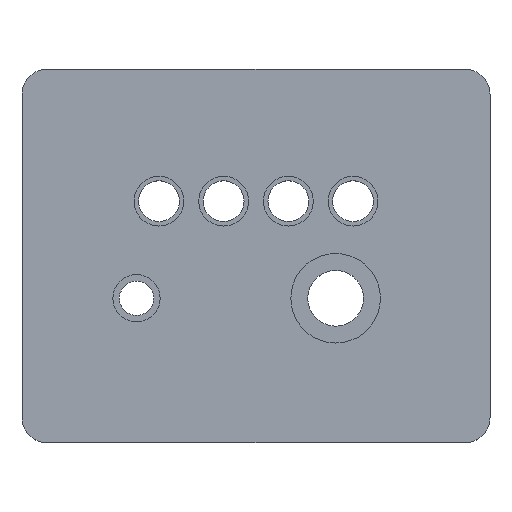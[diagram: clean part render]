
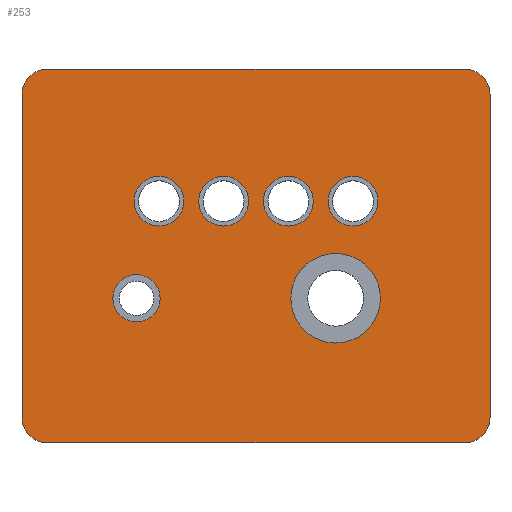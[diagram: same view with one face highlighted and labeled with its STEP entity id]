
A CAD part, top view. The second image highlights one B-rep face of the part: STEP entity #253.
In plain terms, the highlighted planar face has unit normal (0, 0, 1).
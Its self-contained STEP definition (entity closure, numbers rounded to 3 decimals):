
#40=CARTESIAN_POINT('Vertex',(-29.,22.,3.2)) ;
#45=CARTESIAN_POINT('Axis2P3D Location',(-39.,22.,3.2)) ;
#49=CARTESIAN_POINT('Vertex',(-49.,22.,3.2)) ;
#71=CARTESIAN_POINT('Axis2P3D Location',(-39.,22.,3.2)) ;
#88=CARTESIAN_POINT('Axis2P3D Location',(0.,0.,3.2)) ;
#93=CARTESIAN_POINT('Line Origine',(0.,-75.,3.2)) ;
#97=CARTESIAN_POINT('Vertex',(-84.,-75.,3.2)) ;
#99=CARTESIAN_POINT('Vertex',(84.,-75.,3.2)) ;
#102=CARTESIAN_POINT('Axis2P3D Location',(84.,-65.,3.2)) ;
#106=CARTESIAN_POINT('Vertex',(94.,-65.,3.2)) ;
#109=CARTESIAN_POINT('Line Origine',(94.,0.,3.2)) ;
#113=CARTESIAN_POINT('Vertex',(94.,65.,3.2)) ;
#116=CARTESIAN_POINT('Axis2P3D Location',(84.,65.,3.2)) ;
#120=CARTESIAN_POINT('Vertex',(84.,75.,3.2)) ;
#123=CARTESIAN_POINT('Line Origine',(0.,75.,3.2)) ;
#127=CARTESIAN_POINT('Vertex',(-84.,75.,3.2)) ;
#130=CARTESIAN_POINT('Axis2P3D Location',(-84.,65.,3.2)) ;
#134=CARTESIAN_POINT('Vertex',(-94.,65.,3.2)) ;
#137=CARTESIAN_POINT('Line Origine',(-94.,0.,3.2)) ;
#141=CARTESIAN_POINT('Vertex',(-94.,-65.,3.2)) ;
#144=CARTESIAN_POINT('Axis2P3D Location',(-84.,-65.,3.2)) ;
#163=CARTESIAN_POINT('Axis2P3D Location',(-13.,22.,3.2)) ;
#167=CARTESIAN_POINT('Vertex',(-3.,22.,3.2)) ;
#169=CARTESIAN_POINT('Vertex',(-23.,22.,3.2)) ;
#172=CARTESIAN_POINT('Axis2P3D Location',(-13.,22.,3.2)) ;
#181=CARTESIAN_POINT('Axis2P3D Location',(13.,22.,3.2)) ;
#185=CARTESIAN_POINT('Vertex',(23.,22.,3.2)) ;
#187=CARTESIAN_POINT('Vertex',(3.,22.,3.2)) ;
#190=CARTESIAN_POINT('Axis2P3D Location',(13.,22.,3.2)) ;
#199=CARTESIAN_POINT('Axis2P3D Location',(39.,22.,3.2)) ;
#203=CARTESIAN_POINT('Vertex',(49.,22.,3.2)) ;
#205=CARTESIAN_POINT('Vertex',(29.,22.,3.2)) ;
#208=CARTESIAN_POINT('Axis2P3D Location',(39.,22.,3.2)) ;
#217=CARTESIAN_POINT('Axis2P3D Location',(-48.,-17.,3.2)) ;
#221=CARTESIAN_POINT('Vertex',(-38.5,-17.,3.2)) ;
#223=CARTESIAN_POINT('Vertex',(-57.5,-17.,3.2)) ;
#226=CARTESIAN_POINT('Axis2P3D Location',(-48.,-17.,3.2)) ;
#235=CARTESIAN_POINT('Axis2P3D Location',(32.,-17.,3.2)) ;
#239=CARTESIAN_POINT('Vertex',(50.,-17.,3.2)) ;
#241=CARTESIAN_POINT('Vertex',(14.,-17.,3.2)) ;
#244=CARTESIAN_POINT('Axis2P3D Location',(32.,-17.,3.2)) ;
#95=VECTOR('Line Direction',#94,1.) ;
#111=VECTOR('Line Direction',#110,1.) ;
#125=VECTOR('Line Direction',#124,1.) ;
#139=VECTOR('Line Direction',#138,1.) ;
#46=DIRECTION('Axis2P3D Direction',(0.,0.,1.)) ;
#72=DIRECTION('Axis2P3D Direction',(0.,0.,1.)) ;
#89=DIRECTION('Axis2P3D Direction',(0.,0.,1.)) ;
#90=DIRECTION('Axis2P3D XDirection',(1.,0.,0.)) ;
#94=DIRECTION('Vector Direction',(1.,0.,0.)) ;
#103=DIRECTION('Axis2P3D Direction',(0.,0.,1.)) ;
#110=DIRECTION('Vector Direction',(0.,1.,0.)) ;
#117=DIRECTION('Axis2P3D Direction',(0.,0.,1.)) ;
#124=DIRECTION('Vector Direction',(-1.,0.,0.)) ;
#131=DIRECTION('Axis2P3D Direction',(0.,0.,1.)) ;
#138=DIRECTION('Vector Direction',(0.,-1.,0.)) ;
#145=DIRECTION('Axis2P3D Direction',(0.,0.,1.)) ;
#164=DIRECTION('Axis2P3D Direction',(0.,0.,1.)) ;
#173=DIRECTION('Axis2P3D Direction',(0.,0.,1.)) ;
#182=DIRECTION('Axis2P3D Direction',(0.,0.,1.)) ;
#191=DIRECTION('Axis2P3D Direction',(0.,0.,1.)) ;
#200=DIRECTION('Axis2P3D Direction',(0.,0.,1.)) ;
#209=DIRECTION('Axis2P3D Direction',(0.,0.,1.)) ;
#218=DIRECTION('Axis2P3D Direction',(0.,0.,1.)) ;
#227=DIRECTION('Axis2P3D Direction',(0.,0.,1.)) ;
#236=DIRECTION('Axis2P3D Direction',(0.,0.,1.)) ;
#245=DIRECTION('Axis2P3D Direction',(0.,0.,1.)) ;
#47=AXIS2_PLACEMENT_3D('Circle Axis2P3D',#45,#46,$) ;
#73=AXIS2_PLACEMENT_3D('Circle Axis2P3D',#71,#72,$) ;
#91=AXIS2_PLACEMENT_3D('Plane Axis2P3D',#88,#89,#90) ;
#104=AXIS2_PLACEMENT_3D('Circle Axis2P3D',#102,#103,$) ;
#118=AXIS2_PLACEMENT_3D('Circle Axis2P3D',#116,#117,$) ;
#132=AXIS2_PLACEMENT_3D('Circle Axis2P3D',#130,#131,$) ;
#146=AXIS2_PLACEMENT_3D('Circle Axis2P3D',#144,#145,$) ;
#165=AXIS2_PLACEMENT_3D('Circle Axis2P3D',#163,#164,$) ;
#174=AXIS2_PLACEMENT_3D('Circle Axis2P3D',#172,#173,$) ;
#183=AXIS2_PLACEMENT_3D('Circle Axis2P3D',#181,#182,$) ;
#192=AXIS2_PLACEMENT_3D('Circle Axis2P3D',#190,#191,$) ;
#201=AXIS2_PLACEMENT_3D('Circle Axis2P3D',#199,#200,$) ;
#210=AXIS2_PLACEMENT_3D('Circle Axis2P3D',#208,#209,$) ;
#219=AXIS2_PLACEMENT_3D('Circle Axis2P3D',#217,#218,$) ;
#228=AXIS2_PLACEMENT_3D('Circle Axis2P3D',#226,#227,$) ;
#237=AXIS2_PLACEMENT_3D('Circle Axis2P3D',#235,#236,$) ;
#246=AXIS2_PLACEMENT_3D('Circle Axis2P3D',#244,#245,$) ;
#96=LINE('Line',#93,#95) ;
#112=LINE('Line',#109,#111) ;
#126=LINE('Line',#123,#125) ;
#140=LINE('Line',#137,#139) ;
#48=CIRCLE('generated circle',#47,10.) ;
#74=CIRCLE('generated circle',#73,10.) ;
#105=CIRCLE('generated circle',#104,10.) ;
#119=CIRCLE('generated circle',#118,10.) ;
#133=CIRCLE('generated circle',#132,10.) ;
#147=CIRCLE('generated circle',#146,10.) ;
#166=CIRCLE('generated circle',#165,10.) ;
#175=CIRCLE('generated circle',#174,10.) ;
#184=CIRCLE('generated circle',#183,10.) ;
#193=CIRCLE('generated circle',#192,10.) ;
#202=CIRCLE('generated circle',#201,10.) ;
#211=CIRCLE('generated circle',#210,10.) ;
#220=CIRCLE('generated circle',#219,9.5) ;
#229=CIRCLE('generated circle',#228,9.5) ;
#238=CIRCLE('generated circle',#237,18.) ;
#247=CIRCLE('generated circle',#246,18.) ;
#92=PLANE('',#91) ;
#162=FACE_BOUND('',#159,.T.) ;
#180=FACE_BOUND('',#177,.T.) ;
#198=FACE_BOUND('',#195,.T.) ;
#216=FACE_BOUND('',#213,.T.) ;
#234=FACE_BOUND('',#231,.T.) ;
#252=FACE_BOUND('',#249,.T.) ;
#51=EDGE_CURVE('',#41,#50,#48,.T.) ;
#75=EDGE_CURVE('',#50,#41,#74,.T.) ;
#101=EDGE_CURVE('',#98,#100,#96,.T.) ;
#108=EDGE_CURVE('',#100,#107,#105,.T.) ;
#115=EDGE_CURVE('',#107,#114,#112,.T.) ;
#122=EDGE_CURVE('',#114,#121,#119,.T.) ;
#129=EDGE_CURVE('',#121,#128,#126,.T.) ;
#136=EDGE_CURVE('',#128,#135,#133,.T.) ;
#143=EDGE_CURVE('',#135,#142,#140,.T.) ;
#148=EDGE_CURVE('',#142,#98,#147,.T.) ;
#171=EDGE_CURVE('',#168,#170,#166,.T.) ;
#176=EDGE_CURVE('',#170,#168,#175,.T.) ;
#189=EDGE_CURVE('',#186,#188,#184,.T.) ;
#194=EDGE_CURVE('',#188,#186,#193,.T.) ;
#207=EDGE_CURVE('',#204,#206,#202,.T.) ;
#212=EDGE_CURVE('',#206,#204,#211,.T.) ;
#225=EDGE_CURVE('',#222,#224,#220,.T.) ;
#230=EDGE_CURVE('',#224,#222,#229,.T.) ;
#243=EDGE_CURVE('',#240,#242,#238,.T.) ;
#248=EDGE_CURVE('',#242,#240,#247,.T.) ;
#150=ORIENTED_EDGE('',*,*,#101,.T.) ;
#151=ORIENTED_EDGE('',*,*,#108,.T.) ;
#152=ORIENTED_EDGE('',*,*,#115,.T.) ;
#153=ORIENTED_EDGE('',*,*,#122,.T.) ;
#154=ORIENTED_EDGE('',*,*,#129,.T.) ;
#155=ORIENTED_EDGE('',*,*,#136,.T.) ;
#156=ORIENTED_EDGE('',*,*,#143,.T.) ;
#157=ORIENTED_EDGE('',*,*,#148,.T.) ;
#160=ORIENTED_EDGE('',*,*,#51,.F.) ;
#161=ORIENTED_EDGE('',*,*,#75,.F.) ;
#178=ORIENTED_EDGE('',*,*,#171,.F.) ;
#179=ORIENTED_EDGE('',*,*,#176,.F.) ;
#196=ORIENTED_EDGE('',*,*,#189,.F.) ;
#197=ORIENTED_EDGE('',*,*,#194,.F.) ;
#214=ORIENTED_EDGE('',*,*,#207,.F.) ;
#215=ORIENTED_EDGE('',*,*,#212,.F.) ;
#232=ORIENTED_EDGE('',*,*,#225,.F.) ;
#233=ORIENTED_EDGE('',*,*,#230,.F.) ;
#250=ORIENTED_EDGE('',*,*,#243,.F.) ;
#251=ORIENTED_EDGE('',*,*,#248,.F.) ;
#149=EDGE_LOOP('',(#150,#151,#152,#153,#154,#155,#156,#157)) ;
#159=EDGE_LOOP('',(#160,#161)) ;
#177=EDGE_LOOP('',(#178,#179)) ;
#195=EDGE_LOOP('',(#196,#197)) ;
#213=EDGE_LOOP('',(#214,#215)) ;
#231=EDGE_LOOP('',(#232,#233)) ;
#249=EDGE_LOOP('',(#250,#251)) ;
#41=VERTEX_POINT('',#40) ;
#50=VERTEX_POINT('',#49) ;
#98=VERTEX_POINT('',#97) ;
#100=VERTEX_POINT('',#99) ;
#107=VERTEX_POINT('',#106) ;
#114=VERTEX_POINT('',#113) ;
#121=VERTEX_POINT('',#120) ;
#128=VERTEX_POINT('',#127) ;
#135=VERTEX_POINT('',#134) ;
#142=VERTEX_POINT('',#141) ;
#168=VERTEX_POINT('',#167) ;
#170=VERTEX_POINT('',#169) ;
#186=VERTEX_POINT('',#185) ;
#188=VERTEX_POINT('',#187) ;
#204=VERTEX_POINT('',#203) ;
#206=VERTEX_POINT('',#205) ;
#222=VERTEX_POINT('',#221) ;
#224=VERTEX_POINT('',#223) ;
#240=VERTEX_POINT('',#239) ;
#242=VERTEX_POINT('',#241) ;
#253=ADVANCED_FACE('TOP_COVER',(#158,#162,#180,#198,#216,#234,#252),#92,.T.) ;
#158=FACE_OUTER_BOUND('',#149,.T.) ;
